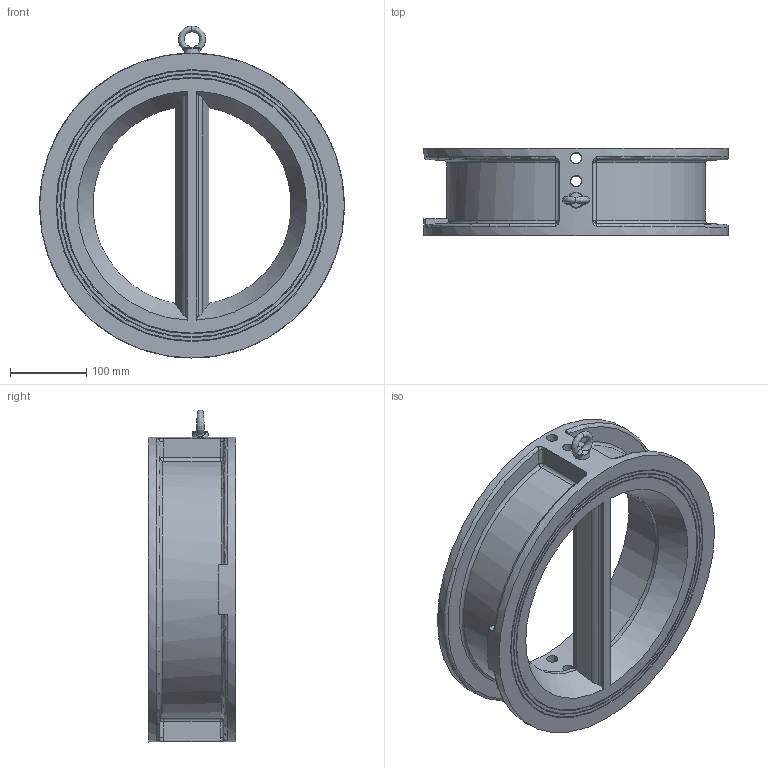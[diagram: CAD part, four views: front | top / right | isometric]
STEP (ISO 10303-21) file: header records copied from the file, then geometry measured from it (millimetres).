
FILE_DESCRIPTION (( 'STEP AP203' ), '1' );
FILE_NAME ('5306 DN300 PN25.STEP', '2026-04-29T07:44:09', ( '' ), ( '' ), 'SwSTEP 2.0', 'SolidWorks 2018', '' );
FILE_SCHEMA (( 'CONFIG_CONTROL_DESIGN' ));
Length unit declared in the file: millimetre
Products named in the file (3): GB╱T 825-1988[吊环螺钉M8]_M8; 5306 DN300 概极; 5306 DN300 PN25
Assembly tree (2 placements, depth 2):
  5306 DN300 PN25
    5306 DN300 概极
    GB╱T 825-1988[吊环螺钉M8]_M8
Bounding box: 399 x 114 x 434.6 mm (x, y, z)
Volume: 3917777.2 mm3; surface area: 480949.1 mm2
Topology: 2 solids, 2 shells, 140 faces, 332 edges, 191 vertices
Faces by surface type: bspline 41, cylinder 33, plane 29, cone 24, torus 13
Full cylindrical faces by diameter (mm): 6.8 x1, 8 x1, 13 x1, 14.4 x4, 14.6 x4, 310 x1, 399 x1
Entity records: 7793 total; most frequent: CARTESIAN_POINT 4904, ORIENTED_EDGE 542, DIRECTION 458, EDGE_CURVE 271, AXIS2_PLACEMENT_3D 205, EDGE_LOOP 197, VERTEX_POINT 180, FACE_OUTER_BOUND 155
